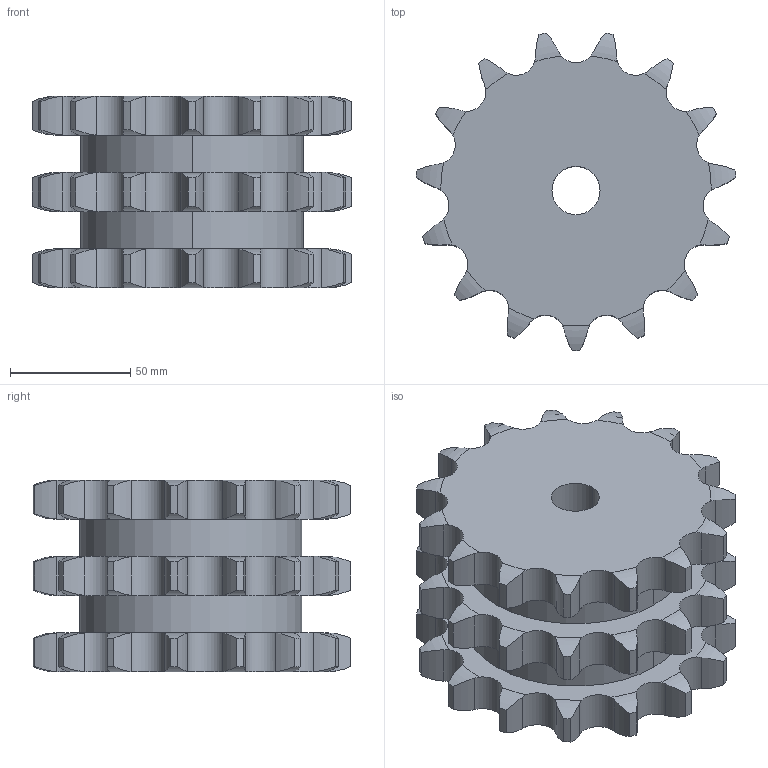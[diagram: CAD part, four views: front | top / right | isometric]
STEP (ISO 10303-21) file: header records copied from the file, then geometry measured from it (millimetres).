
FILE_DESCRIPTION((''),'2;1');
FILE_NAME('500-503-0015_PRT','2021-02-12T',('Brieden'),('Brieden'),'PRO/ENGINEER BY PARAMETRIC TECHNOLOGY CORPORATION, 2010160','PRO/ENGINEER BY PARAMETRIC TECHNOLOGY CORPORATION, 2010160','');
FILE_SCHEMA(('AUTOMOTIVE_DESIGN { 1 0 10303 214 1 1 1 1 }'));
Length unit declared in the file: millimetre
Products named in the file (1): 500-503-0015_PRT
Bounding box: 132.57 x 131.86 x 79.6 mm (x, y, z)
Volume: 698071.6 mm3; surface area: 77842.6 mm2
Topology: 1 solids, 1 shells, 282 faces, 828 edges, 552 vertices
Faces by surface type: cylinder 186, torus 90, plane 6
Entity records: 13277 total; most frequent: CARTESIAN_POINT 3650, ORIENTED_EDGE 1656, DIRECTION 1314, PRESENTATION_STYLE_ASSIGNMENT 829, STYLED_ITEM 829, CURVE_STYLE 828, EDGE_CURVE 828, AXIS2_PLACEMENT_3D 564
